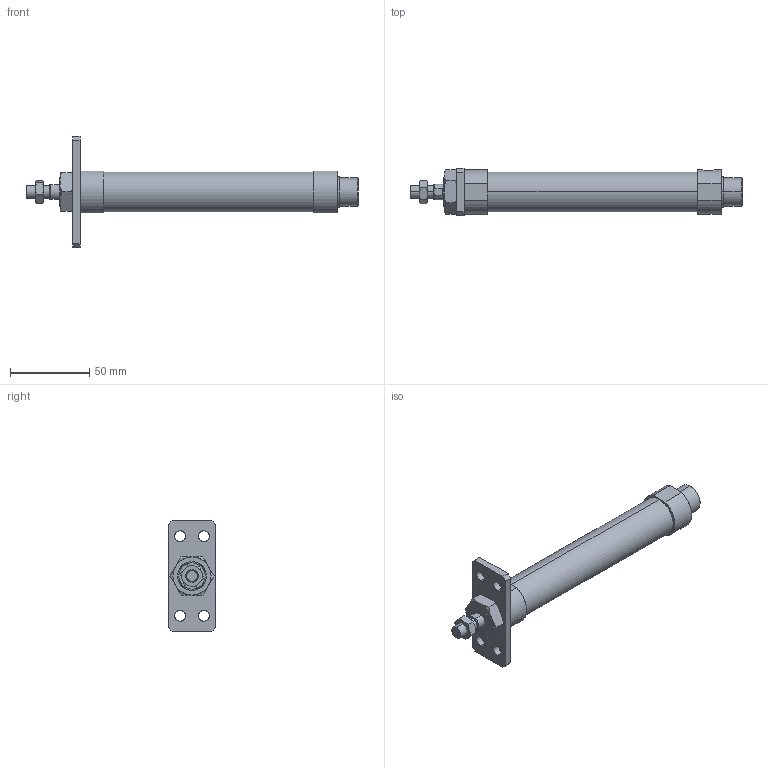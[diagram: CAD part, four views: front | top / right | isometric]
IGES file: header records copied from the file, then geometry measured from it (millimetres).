
Start section: SolidWorks IGES file using analytic representation for surfaces
Global section: file name: C:\Users\Toshiba\Desktop\J#1-20-50-A.IGS; native system: SolidWorks 2014; preprocessor: SolidWorks 2014; author: Toshiba; date: 160308.144243; units: millimetre
Bounding box: 209 x 30 x 70 mm (x, y, z)
Surface area: 23780.5 mm2 (no closed solid volume)
Topology: 0 solids, 0 shells, 109 faces, 1922 edges, 1922 vertices
Faces by surface type: bspline 69, revolution 40
